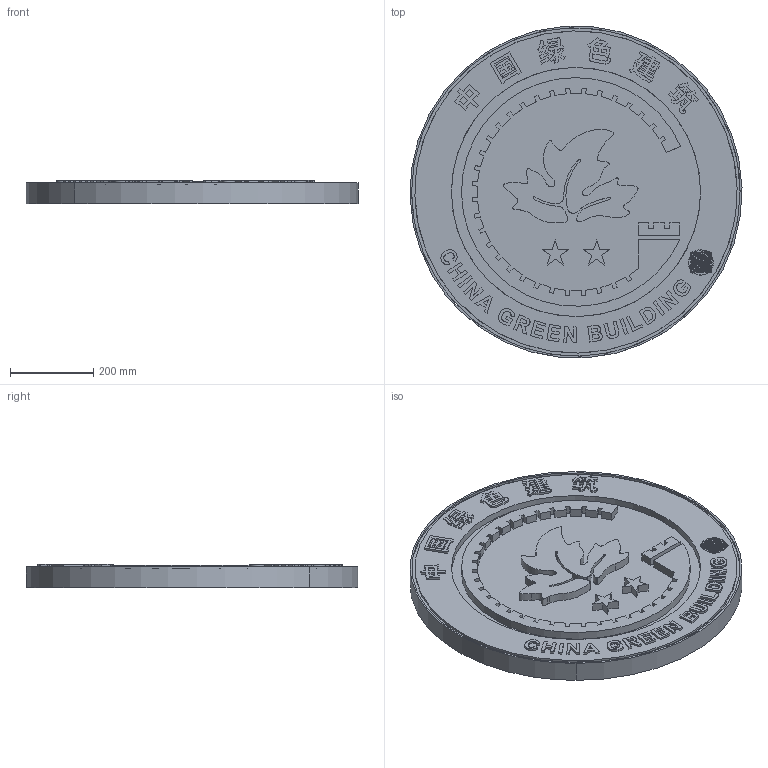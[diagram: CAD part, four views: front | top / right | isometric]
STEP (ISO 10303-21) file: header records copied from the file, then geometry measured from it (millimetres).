
FILE_DESCRIPTION(/* description */ (''),/* implementation_level */ '2;1');
FILE_NAME(/* name */ '二星（~2',/* time_stamp */ '2021-05-12T10:48:13+08:00',/* author */ (''),/* organization */ (''),/* preprocessor_version */ 'ST-DEVELOPER v15',/* originating_system */ '',/* authorisation */ '');
FILE_SCHEMA (('AUTOMOTIVE_DESIGN'));
Length unit declared in the file: millimetre
Products named in the file (1): Document
Bounding box: 799.67 x 798.21 x 55.42 mm (x, y, z)
Volume: 22194393.8 mm3; surface area: 2150650.5 mm2
Topology: 292 solids, 292 shells, 2266 faces, 5046 edges, 3364 vertices
Faces by surface type: bspline 1463, plane 803
Entity records: 80445 total; most frequent: CARTESIAN_POINT 45245, ORIENTED_EDGE 10092, EDGE_CURVE 5046, B_SPLINE_CURVE_WITH_KNOTS 5046, VERTEX_POINT 3364, EDGE_LOOP 2308, ADVANCED_FACE 2266, FACE_OUTER_BOUND 2266
